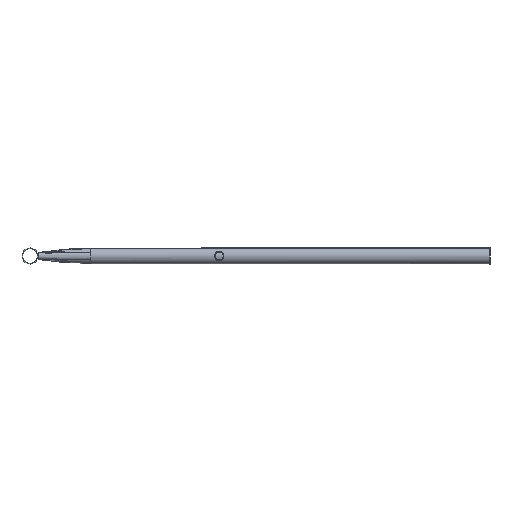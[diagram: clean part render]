
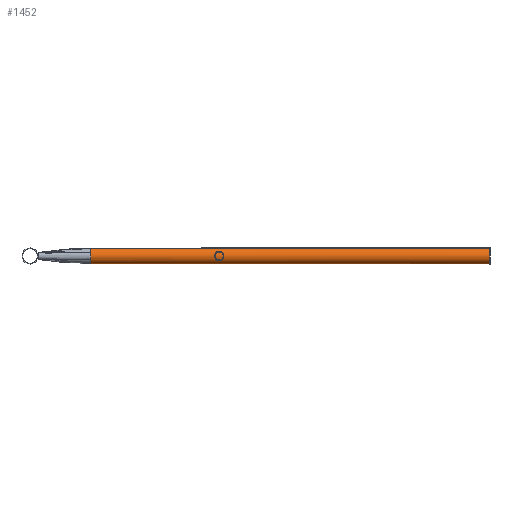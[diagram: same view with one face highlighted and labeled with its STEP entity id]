
A CAD part, left-side view. The second image highlights one B-rep face of the part: STEP entity #1452.
In plain terms, the highlighted cylindrical face has radius 21.2 mm (diameter 42.4 mm), a full revolution.
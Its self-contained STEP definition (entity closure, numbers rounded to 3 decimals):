
#1140=CARTESIAN_POINT('',(18.962,938.8,-9.481));
#1141=VERTEX_POINT('',#1140);
#1149=CARTESIAN_POINT('',(18.533,938.8,-10.294));
#1150=VERTEX_POINT('',#1149);
#1151=CARTESIAN_POINT('',(0.0,938.8,0.0));
#1152=DIRECTION('',(0.0,-1.0,0.0));
#1153=DIRECTION('',(1.0,0.0,0.0));
#1154=AXIS2_PLACEMENT_3D('',#1151,#1152,#1153);
#1155=CIRCLE('',#1154,21.2);
#1156=EDGE_CURVE('',#1150,#1141,#1155,.T.);
#1158=CARTESIAN_POINT('',(-18.533,938.8,-10.294));
#1159=VERTEX_POINT('',#1158);
#1160=CARTESIAN_POINT('',(0.0,938.8,0.0));
#1161=DIRECTION('',(0.0,-1.0,0.0));
#1162=DIRECTION('',(1.0,0.0,0.0));
#1163=AXIS2_PLACEMENT_3D('',#1160,#1161,#1162);
#1164=CIRCLE('',#1163,21.2);
#1165=EDGE_CURVE('',#1159,#1150,#1164,.T.);
#1167=CARTESIAN_POINT('',(-18.962,938.8,-9.481));
#1168=VERTEX_POINT('',#1167);
#1169=CARTESIAN_POINT('',(0.0,938.8,0.0));
#1170=DIRECTION('',(0.0,-1.0,0.0));
#1171=DIRECTION('',(1.0,0.0,0.0));
#1172=AXIS2_PLACEMENT_3D('',#1169,#1170,#1171);
#1173=CIRCLE('',#1172,21.2);
#1174=EDGE_CURVE('',#1168,#1159,#1173,.T.);
#1231=CARTESIAN_POINT('',(18.962,938.8,9.481));
#1232=VERTEX_POINT('',#1231);
#1240=CARTESIAN_POINT('',(0.0,938.8,0.0));
#1241=DIRECTION('',(0.0,-1.0,0.0));
#1242=DIRECTION('',(1.0,0.0,0.0));
#1243=AXIS2_PLACEMENT_3D('',#1240,#1241,#1242);
#1244=CIRCLE('',#1243,21.2);
#1245=EDGE_CURVE('',#1141,#1232,#1244,.T.);
#1293=CARTESIAN_POINT('',(-18.962,938.8,9.481));
#1294=VERTEX_POINT('',#1293);
#1302=CARTESIAN_POINT('',(-18.533,938.8,10.294));
#1303=VERTEX_POINT('',#1302);
#1304=CARTESIAN_POINT('',(0.0,938.8,0.0));
#1305=DIRECTION('',(0.0,-1.0,0.0));
#1306=DIRECTION('',(1.0,0.0,0.0));
#1307=AXIS2_PLACEMENT_3D('',#1304,#1305,#1306);
#1308=CIRCLE('',#1307,21.2);
#1309=EDGE_CURVE('',#1303,#1294,#1308,.T.);
#1311=CARTESIAN_POINT('',(18.533,938.8,10.294));
#1312=VERTEX_POINT('',#1311);
#1313=CARTESIAN_POINT('',(0.0,938.8,0.0));
#1314=DIRECTION('',(0.0,-1.0,0.0));
#1315=DIRECTION('',(1.0,0.0,0.0));
#1316=AXIS2_PLACEMENT_3D('',#1313,#1314,#1315);
#1317=CIRCLE('',#1316,21.2);
#1318=EDGE_CURVE('',#1312,#1303,#1317,.T.);
#1320=CARTESIAN_POINT('',(0.0,938.8,0.0));
#1321=DIRECTION('',(0.0,-1.0,0.0));
#1322=DIRECTION('',(1.0,0.0,0.0));
#1323=AXIS2_PLACEMENT_3D('',#1320,#1321,#1322);
#1324=CIRCLE('',#1323,21.2);
#1325=EDGE_CURVE('',#1232,#1312,#1324,.T.);
#1377=CARTESIAN_POINT('',(-21.2,938.8,0.));
#1378=VERTEX_POINT('',#1377);
#1379=CARTESIAN_POINT('',(0.0,938.8,0.0));
#1380=DIRECTION('',(0.0,-1.0,0.0));
#1381=DIRECTION('',(1.0,0.0,0.0));
#1382=AXIS2_PLACEMENT_3D('',#1379,#1380,#1381);
#1383=CIRCLE('',#1382,21.2);
#1384=EDGE_CURVE('',#1378,#1168,#1383,.T.);
#1386=CARTESIAN_POINT('',(0.0,938.8,0.0));
#1387=DIRECTION('',(0.0,-1.0,0.0));
#1388=DIRECTION('',(1.0,0.0,0.0));
#1389=AXIS2_PLACEMENT_3D('',#1386,#1387,#1388);
#1390=CIRCLE('',#1389,21.2);
#1391=EDGE_CURVE('',#1294,#1378,#1390,.T.);
#1425=CARTESIAN_POINT('',(0.0,-116.,0.0));
#1426=DIRECTION('',(0.0,1.0,0.0));
#1427=DIRECTION('',(1.0,0.0,0.0));
#1428=AXIS2_PLACEMENT_3D('',#1425,#1426,#1427);
#1429=CYLINDRICAL_SURFACE('',#1428,21.2);
#1430=ORIENTED_EDGE('',*,*,#1384,.T.);
#1431=ORIENTED_EDGE('',*,*,#1174,.T.);
#1432=ORIENTED_EDGE('',*,*,#1165,.T.);
#1433=ORIENTED_EDGE('',*,*,#1156,.T.);
#1434=ORIENTED_EDGE('',*,*,#1245,.T.);
#1435=ORIENTED_EDGE('',*,*,#1325,.T.);
#1436=ORIENTED_EDGE('',*,*,#1318,.T.);
#1437=ORIENTED_EDGE('',*,*,#1309,.T.);
#1438=ORIENTED_EDGE('',*,*,#1391,.T.);
#1439=EDGE_LOOP('',(#1430,#1431,#1432,#1433,#1434,#1435,#1436,#1437,#1438));
#1440=FACE_OUTER_BOUND('',#1439,.T.);
#1441=CARTESIAN_POINT('',(-21.2,-116.,0.));
#1442=VERTEX_POINT('',#1441);
#1443=CARTESIAN_POINT('',(0.0,-116.,0.0));
#1444=DIRECTION('',(0.0,-1.0,0.0));
#1445=DIRECTION('',(1.0,0.0,0.0));
#1446=AXIS2_PLACEMENT_3D('',#1443,#1444,#1445);
#1447=CIRCLE('',#1446,21.2);
#1448=EDGE_CURVE('',#1442,#1442,#1447,.T.);
#1449=ORIENTED_EDGE('',*,*,#1448,.F.);
#1450=EDGE_LOOP('',(#1449));
#1451=FACE_BOUND('',#1450,.T.);
#1452=ADVANCED_FACE('',(#1440,#1451),#1429,.T.);
